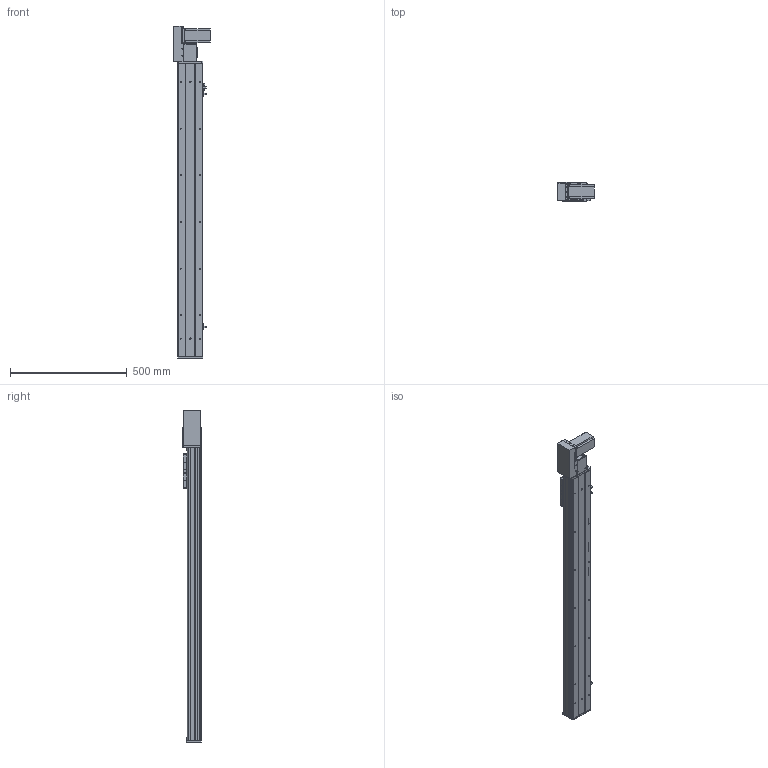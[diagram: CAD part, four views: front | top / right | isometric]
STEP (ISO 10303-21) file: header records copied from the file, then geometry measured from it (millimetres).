
FILE_DESCRIPTION (( 'STEP AP203' ), '1' );
FILE_NAME ('Y10CB-D90-S1000-BL-P400W.STEP', '2020-02-15T07:55:43', ( '微软用户' ), ( '微软中国' ), 'SwSTEP 2.0', 'SolidWorks 2017', '' );
FILE_SCHEMA (( 'CONFIG_CONTROL_DESIGN' ));
Length unit declared in the file: millimetre
Products named in the file (18): 10CB-耜裔; san松下电机400不带刹车----; Y135C-陔俋离換覜結え-; 0B-源倛裔啣; Y100-135俋离換覜ん--; 0B-埴倛裔啣; 0CB-雄赽釱---; Y10CB-D90-S1000-BL-P400W; Y俋欶BR----; 0Cb-俋欶---; 10CB-詩湍-; Y10B-々湍喘謫眊楊擘啣--; Y10CB- 掛极耜裔啣-毀---; Y10B--々湍喘謫眊--666; Y10C---詩湍揤啣; Y10B-耜蚾蟀諉啣----; 10CB9-掛极; 0B-萇儂楊擘啣
Assembly tree (21 placements, depth 2):
  Y10CB-D90-S1000-BL-P400W
    0CB-雄赽釱---
    0Cb-俋欶---
    Y10B-々湍喘謫眊楊擘啣--
    Y10B--々湍喘謫眊--666
    Y10B-耜蚾蟀諉啣----
    0B-萇儂楊擘啣
    san松下电机400不带刹车----
    0B-源倛裔啣
    0B-埴倛裔啣
    Y俋欶BR----
    10CB-詩湍-
    Y10CB- 掛极耜裔啣-毀---  x2
    Y10C---詩湍揤啣  x2
    10CB9-掛极
    10CB-耜裔
    Y135C-陔俋离換覜結え-
    Y100-135俋离換覜ん--  x3
Bounding box: 157.5 x 80.5 x 1422.5 mm (x, y, z)
Volume: 3136721.2 mm3; surface area: 1412675 mm2
Topology: 21 solids, 21 shells, 990 faces, 2643 edges, 1730 vertices
Faces by surface type: cylinder 487, plane 479, cone 24
Entity records: 30904 total; most frequent: CARTESIAN_POINT 5469, DIRECTION 4994, ORIENTED_EDGE 4756, EDGE_CURVE 2378, AXIS2_PLACEMENT_3D 1785, VERTEX_POINT 1556, VECTOR 1424, LINE 1424
